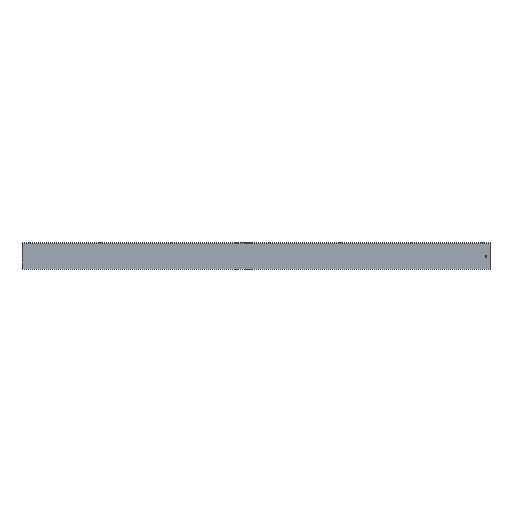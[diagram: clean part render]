
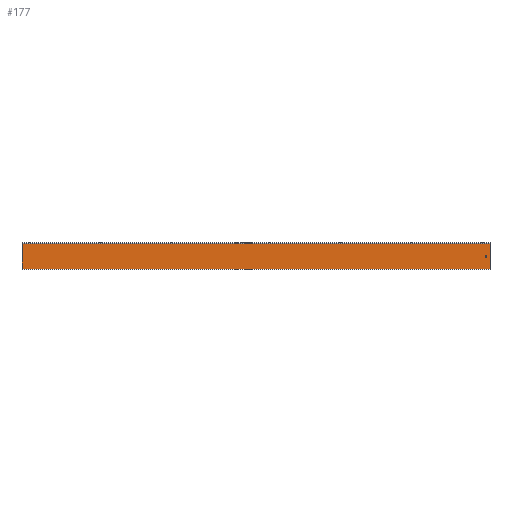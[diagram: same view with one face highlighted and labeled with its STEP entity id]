
A CAD part, left-side view. The second image highlights one B-rep face of the part: STEP entity #177.
In plain terms, the highlighted planar face has unit normal (-1, 0, 0).
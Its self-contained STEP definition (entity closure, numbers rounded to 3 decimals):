
#177 = ADVANCED_FACE( '', ( #441, #442 ), #443, .T. );
#441 = FACE_BOUND( '', #885, .T. );
#442 = FACE_OUTER_BOUND( '', #886, .T. );
#443 = PLANE( '', #887 );
#885 = EDGE_LOOP( '', ( #1640, #1641 ) );
#886 = EDGE_LOOP( '', ( #1642, #1643, #1644, #1645 ) );
#887 = AXIS2_PLACEMENT_3D( '', #1646, #1647, #1648 );
#1640 = ORIENTED_EDGE( '', *, *, #2817, .T. );
#1641 = ORIENTED_EDGE( '', *, *, #2827, .T. );
#1642 = ORIENTED_EDGE( '', *, *, #2902, .T. );
#1643 = ORIENTED_EDGE( '', *, *, #2903, .F. );
#1644 = ORIENTED_EDGE( '', *, *, #2904, .T. );
#1645 = ORIENTED_EDGE( '', *, *, #2899, .T. );
#1646 = CARTESIAN_POINT( '', ( -22.2, 0., 67.95 ) );
#1647 = DIRECTION( '', ( -1., 0., 0. ) );
#1648 = DIRECTION( '', ( 0., 0., 1. ) );
#2817 = EDGE_CURVE( '', #3399, #3396, #3400, .T. );
#2827 = EDGE_CURVE( '', #3396, #3399, #3415, .T. );
#2899 = EDGE_CURVE( '', #3513, #3511, #3514, .T. );
#2902 = EDGE_CURVE( '', #3511, #3518, #3519, .T. );
#2903 = EDGE_CURVE( '', #3520, #3518, #3521, .T. );
#2904 = EDGE_CURVE( '', #3520, #3513, #3522, .T. );
#3396 = VERTEX_POINT( '', #4274 );
#3399 = VERTEX_POINT( '', #4278 );
#3400 = CIRCLE( '', #4279, 2.55 );
#3415 = CIRCLE( '', #4297, 2.55 );
#3511 = VERTEX_POINT( '', #4427 );
#3513 = VERTEX_POINT( '', #4430 );
#3514 = LINE( '', #4431, #4432 );
#3518 = VERTEX_POINT( '', #4438 );
#3519 = LINE( '', #4439, #4440 );
#3520 = VERTEX_POINT( '', #4441 );
#3521 = LINE( '', #4442, #4443 );
#3522 = LINE( '', #4444, #4445 );
#4274 = CARTESIAN_POINT( '', ( -22.2, 11., 29.25 ) );
#4278 = CARTESIAN_POINT( '', ( -22.2, 11., 34.35 ) );
#4279 = AXIS2_PLACEMENT_3D( '', #5405, #5406, #5407 );
#4297 = AXIS2_PLACEMENT_3D( '', #5429, #5430, #5431 );
#4427 = CARTESIAN_POINT( '', ( -22.2, 1315., 67.95 ) );
#4430 = CARTESIAN_POINT( '', ( -22.2, 0., 67.95 ) );
#4431 = CARTESIAN_POINT( '', ( -22.2, 0., 67.95 ) );
#4432 = VECTOR( '', #5575, 1. );
#4438 = CARTESIAN_POINT( '', ( -22.2, 1315., -3.5 ) );
#4439 = CARTESIAN_POINT( '', ( -22.2, 1315., -3.5 ) );
#4440 = VECTOR( '', #5578, 1. );
#4441 = CARTESIAN_POINT( '', ( -22.2, 0., -3.5 ) );
#4442 = CARTESIAN_POINT( '', ( -22.2, 0., -3.5 ) );
#4443 = VECTOR( '', #5579, 1. );
#4444 = CARTESIAN_POINT( '', ( -22.2, 0., -3.5 ) );
#4445 = VECTOR( '', #5580, 1. );
#5405 = CARTESIAN_POINT( '', ( -22.2, 11., 31.8 ) );
#5406 = DIRECTION( '', ( 1., 0., 0. ) );
#5407 = DIRECTION( '', ( 0., 0., -1. ) );
#5429 = CARTESIAN_POINT( '', ( -22.2, 11., 31.8 ) );
#5430 = DIRECTION( '', ( 1., 0., 0. ) );
#5431 = DIRECTION( '', ( 0., 0., -1. ) );
#5575 = DIRECTION( '', ( 0., 1., 0. ) );
#5578 = DIRECTION( '', ( 0., 0., -1. ) );
#5579 = DIRECTION( '', ( 0., 1., 0. ) );
#5580 = DIRECTION( '', ( 0., 0., 1. ) );
